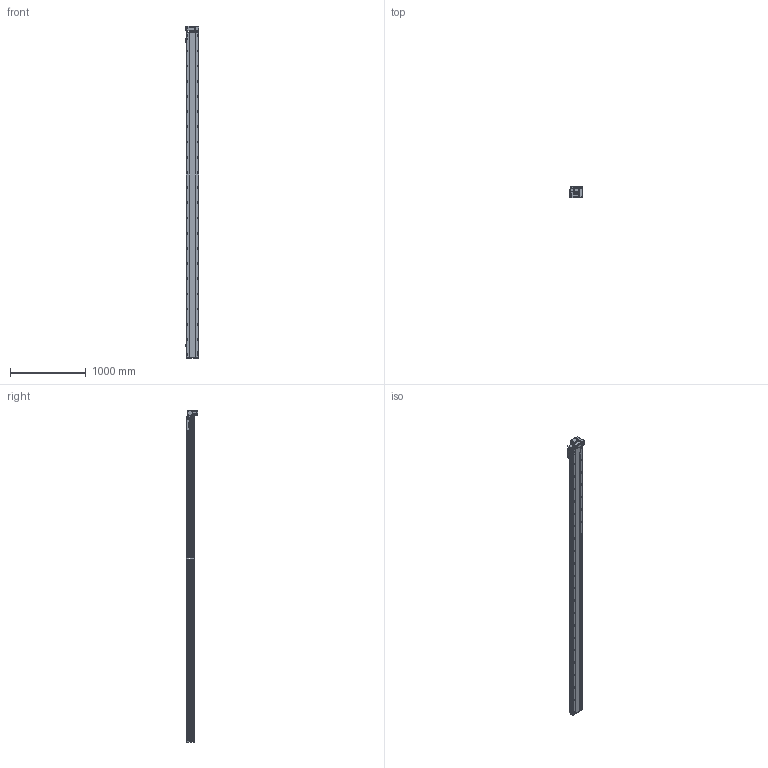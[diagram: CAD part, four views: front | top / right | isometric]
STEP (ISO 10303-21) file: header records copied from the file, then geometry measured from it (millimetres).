
FILE_DESCRIPTION (( 'STEP AP214' ), '1' );
FILE_NAME ('RTB17S-XX-4000-RM-M40-C4.STEP', '2025-12-11T08:42:38', ( '' ), ( '' ), 'SwSTEP 2.0', 'SolidWorks 2018', '' );
FILE_SCHEMA (( 'AUTOMOTIVE_DESIGN' ));
Length unit declared in the file: millimetre
Products named in the file (14): RTB14-L-005P--轴承塑胶压盖^RTB17S-RM-皮带座装配-400W_RTB17S-XX-XX-RM-M40-C4; RTB17S-L-004佪裝蹟譫蟀諉釱^RTB17S-XX-XX-RM-M40-C4; RTB17S-L-001耜醱啣^RTB17S-XX-XX-RM-M40-C4; 400W侜督萇儂^RTB17S-XX-XX-RM-M40-C4; RTB17S-RM-々湍釱蚾饜-400W^RTB17S-XX-XX-RM-M40-C4; RTB17S-L-007奻裔^RTB17S-XX-XX-RM-M40-C4; RTB14-L-017P^RTB17S-RM-々湍釱蚾饜-400W_RTB17S-XX-XX-RM-M40-C4; RTB14-L-018P^RTB17S-RM-々湍釱蚾饜-400W_RTB17S-XX-XX-RM-M40-C4; RTB17-R-011菁釱^RTB17S-XX-XX-RM-M40-C4; OMRON EE-SX672 传感器^RTB17S-XX-XX-RM-M40-C4; RTB14-L-008-M20--萇儂啣^RTB17S-RM-々湍釱蚾饜-400W_RTB17S-XX-XX-RM-M40-C4; RTB17S-L-014-T20--々湍釱^RTB17S-RM-々湍釱蚾饜-400W_RTB17S-XX-XX-RM-M40-C4; RTB17S-XX-4000-RM-M40-C4; RTH13-BL-012覜茼え俋离^RTB17S-XX-XX-RM-M40-C4
Assembly tree (16 placements, depth 3):
  RTB17S-XX-4000-RM-M40-C4
    RTB17-R-011菁釱^RTB17S-XX-XX-RM-M40-C4
    RTB17S-L-007奻裔^RTB17S-XX-XX-RM-M40-C4
    OMRON EE-SX672 传感器^RTB17S-XX-XX-RM-M40-C4  x3
    RTB17S-L-001耜醱啣^RTB17S-XX-XX-RM-M40-C4
    400W侜督萇儂^RTB17S-XX-XX-RM-M40-C4
    RTB17S-L-004佪裝蹟譫蟀諉釱^RTB17S-XX-XX-RM-M40-C4
    RTH13-BL-012覜茼え俋离^RTB17S-XX-XX-RM-M40-C4
    RTB17S-RM-々湍釱蚾饜-400W^RTB17S-XX-XX-RM-M40-C4
      RTB17S-L-014-T20--々湍釱^RTB17S-RM-々湍釱蚾饜-400W_RTB17S-XX-XX-RM-M40-C4
      RTB14-L-005P--轴承塑胶压盖^RTB17S-RM-皮带座装配-400W_RTB17S-XX-XX-RM-M40-C4
      RTB14-L-008-M20--萇儂啣^RTB17S-RM-々湍釱蚾饜-400W_RTB17S-XX-XX-RM-M40-C4
      RTB14-L-017P^RTB17S-RM-々湍釱蚾饜-400W_RTB17S-XX-XX-RM-M40-C4  x2
      RTB14-L-018P^RTB17S-RM-々湍釱蚾饜-400W_RTB17S-XX-XX-RM-M40-C4
Bounding box: 183.5 x 156.5 x 4372.5 mm (x, y, z)
Volume: 36841700.2 mm3; surface area: 4165039.7 mm2
Topology: 15 solids, 15 shells, 2445 faces, 6897 edges, 4509 vertices
Faces by surface type: plane 1098, cylinder 899, bspline 301, cone 139, torus 8
Entity records: 74153 total; most frequent: CARTESIAN_POINT 21302, ORIENTED_EDGE 10638, DIRECTION 9746, EDGE_CURVE 5319, VERTEX_POINT 3497, AXIS2_PLACEMENT_3D 3427, LINE 2892, VECTOR 2892
